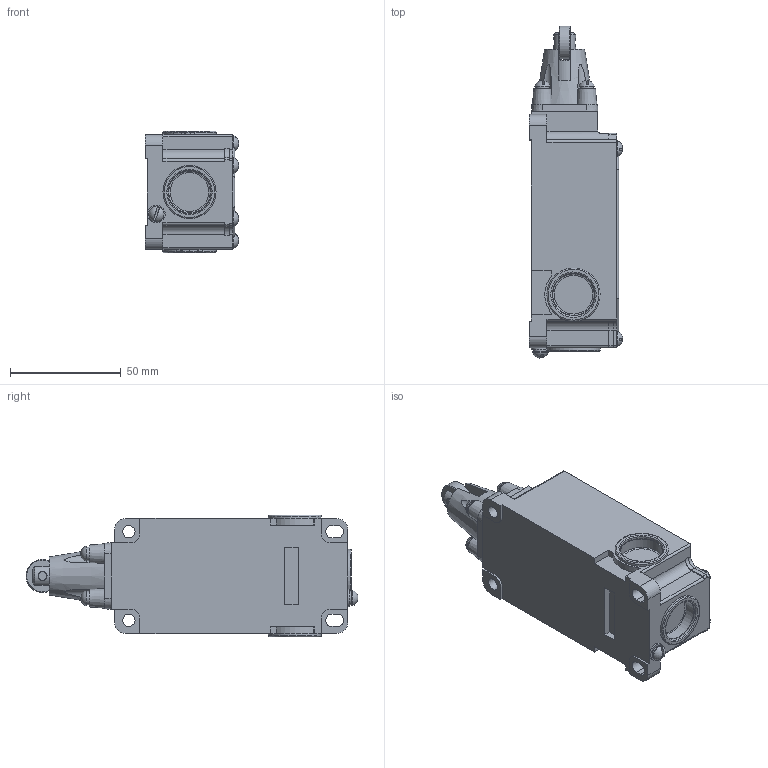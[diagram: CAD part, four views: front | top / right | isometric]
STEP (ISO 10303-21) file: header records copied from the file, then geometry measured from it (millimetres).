
FILE_DESCRIPTION(('STEP AP242'), '1');
FILE_NAME('Âûêëþ÷àòåëü ïóòåâîé ÂÂÏ11-10 ÕÕ21-51Õ2ÕÕ', '2025-08-25T06:18:23', (''), (''), 'ASCON STEP Converter 1.6', 'ASCON Math Kernel', '');
FILE_SCHEMA(('AP242_MANAGED_MODEL_BASED_3D_ENGINEERING_MIM_LF { 1 0 10303 442 1 1 4 }'));
Length unit declared in the file: millimetre
Bounding box: 42.27 x 150.06 x 55 mm (x, y, z)
Volume: 205081.7 mm3; surface area: 30584.9 mm2
Topology: 1 solids, 1 shells, 325 faces, 826 edges, 528 vertices
Faces by surface type: plane 169, cylinder 111, cone 22, torus 13, sphere 9, bspline 1
Full cylindrical faces by diameter (mm): 1.5 x1, 2.4 x1, 2.5 x1, 4 x7, 4.2 x4, 4.3 x1, 5.6 x2, 7 x9, 8 x1, 10 x1, 15 x1, 18.8 x3, 19.5 x3, 22.8 x2, 24 x3
Entity records: 13553 total; most frequent: CARTESIAN_POINT 3159, DIRECTION 1678, ORIENTED_EDGE 1510, EDGE_CURVE 755, AXIS2_PLACEMENT_3D 663, VERTEX_POINT 527, EDGE_LOOP 444, LINE 352
